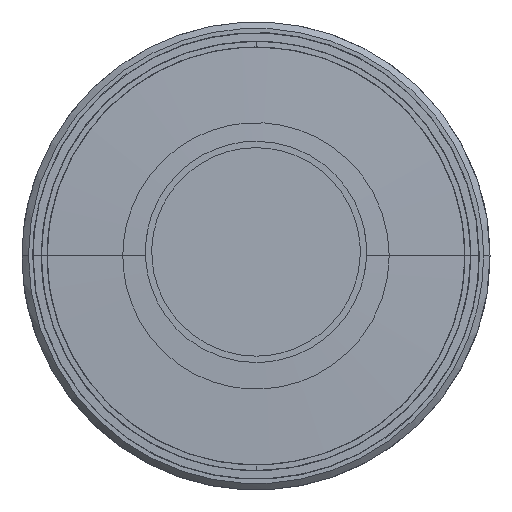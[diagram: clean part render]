
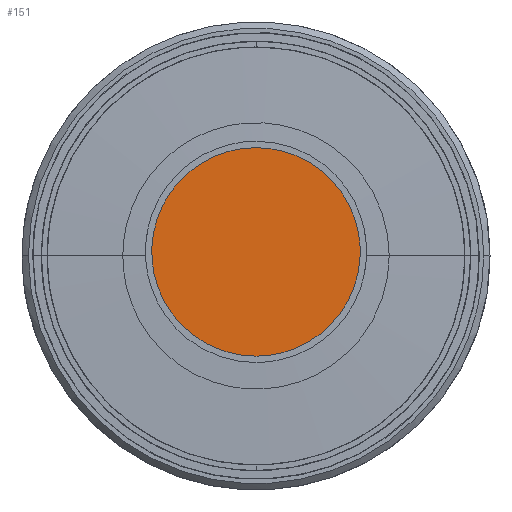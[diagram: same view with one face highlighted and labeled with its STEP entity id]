
A CAD part, top view. The second image highlights one B-rep face of the part: STEP entity #151.
In plain terms, the highlighted planar face has unit normal (0, 0, 1).
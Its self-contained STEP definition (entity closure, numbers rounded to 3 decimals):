
#151=ADVANCED_FACE('',(#694),#7364,.T.);
#694=FACE_OUTER_BOUND('',#1241,.T.);
#1241=EDGE_LOOP('',(#1893));
#1893=ORIENTED_EDGE('',*,*,#4266,.F.);
#4266=EDGE_CURVE('',#6648,#6648,#6033,.T.);
#6033=(
BOUNDED_CURVE()
B_SPLINE_CURVE(2,(#8869,#8870,#8871,#8872,#8873,#8874,#8875,#8876,#8877),
 .UNSPECIFIED.,.T.,.F.)
B_SPLINE_CURVE_WITH_KNOTS((3,2,2,2,3),(-153.938,-76.969,
0.,76.969,153.938),.UNSPECIFIED.)
CURVE()
GEOMETRIC_REPRESENTATION_ITEM()
RATIONAL_B_SPLINE_CURVE((1.,0.707,1.,0.707,1.,0.707,
1.,0.707,1.))
REPRESENTATION_ITEM('')
);
#6648=VERTEX_POINT('',#8596);
#7364=PLANE('',#7923);
#7923=AXIS2_PLACEMENT_3D('',#8587,#8082,$);
#8082=DIRECTION('',(0.,0.,1.));
#8587=CARTESIAN_POINT('',(-49.98,-512.313,562.293));
#8596=CARTESIAN_POINT('',(0.,-611.293,562.293));
#8869=CARTESIAN_POINT('',(0.,-611.293,562.293));
#8870=CARTESIAN_POINT('',(-49.,-611.293,562.293));
#8871=CARTESIAN_POINT('',(-49.,-562.293,562.293));
#8872=CARTESIAN_POINT('',(-49.,-513.293,562.293));
#8873=CARTESIAN_POINT('',(0.,-513.293,562.293));
#8874=CARTESIAN_POINT('',(49.,-513.293,562.293));
#8875=CARTESIAN_POINT('',(49.,-562.293,562.293));
#8876=CARTESIAN_POINT('',(49.,-611.293,562.293));
#8877=CARTESIAN_POINT('',(0.,-611.293,562.293));
